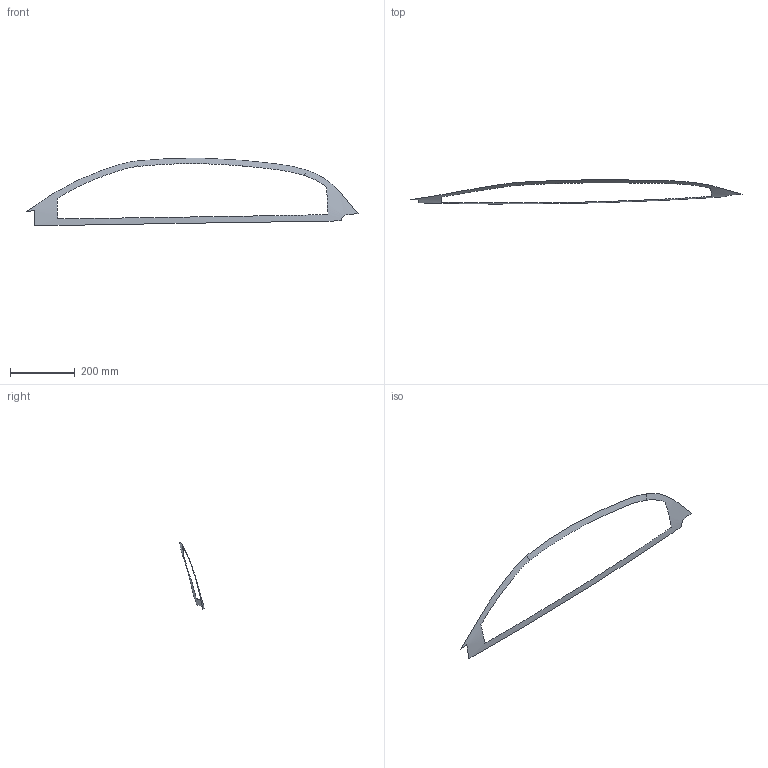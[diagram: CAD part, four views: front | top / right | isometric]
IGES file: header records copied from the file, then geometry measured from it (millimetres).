
Global section: file name: fhole.igs; native system: ANSA9.x; preprocessor: 1.2; author: cai; date: **0103.144123; units: millimetre
Bounding box: 1022.64 x 74.22 x 208.59 mm (x, y, z)
Surface area: 46785.2 mm2 (no closed solid volume)
Topology: 0 solids, 0 shells, 1 faces, 209 edges, 207 vertices
Faces by surface type: bspline 1
